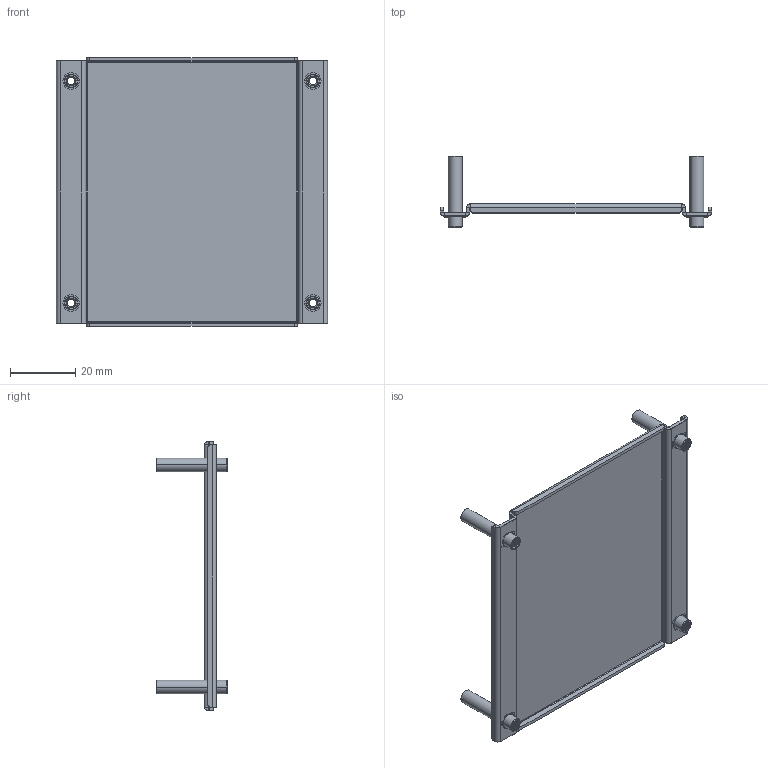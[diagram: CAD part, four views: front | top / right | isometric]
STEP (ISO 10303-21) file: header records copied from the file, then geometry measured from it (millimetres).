
FILE_DESCRIPTION((''),'2;1');
FILE_NAME('123400001982A-HS-BKT_MAC_ASM','2019-06-19T',('george_hsu'),(''),'PRO/ENGINEER BY PARAMETRIC TECHNOLOGY CORPORATION, 2012480','PRO/ENGINEER BY PARAMETRIC TECHNOLOGY CORPORATION, 2012480','');
FILE_SCHEMA(('AUTOMOTIVE_DESIGN { 1 0 10303 214 1 1 1 1 }'));
Length unit declared in the file: millimetre
Products named in the file (5): BKT-HS_MAC; INSULATOR_BKT-HS_MAC; INSULATOR_BRK-MAC-SIDE; STANDOFF-M3-MAC; 123400001982A-HS-BKT_MAC_ASM
Assembly tree (8 placements, depth 2):
  123400001982A-HS-BKT_MAC_ASM
    BKT-HS_MAC
    INSULATOR_BKT-HS_MAC
    INSULATOR_BRK-MAC-SIDE  x2
    STANDOFF-M3-MAC  x4
Bounding box: 83 x 21.66 x 82.3 mm (x, y, z)
Volume: 9861.7 mm3; surface area: 29831.8 mm2
Topology: 8 solids, 8 shells, 292 faces, 696 edges, 432 vertices
Faces by surface type: plane 128, cylinder 124, bspline 24, cone 16
Entity records: 7315 total; most frequent: CARTESIAN_POINT 2355, DIRECTION 735, ORIENTED_EDGE 708, EDGE_CURVE 354, PRESENTATION_STYLE_ASSIGNMENT 320, STYLED_ITEM 320, CURVE_STYLE 318, AXIS2_PLACEMENT_3D 259
